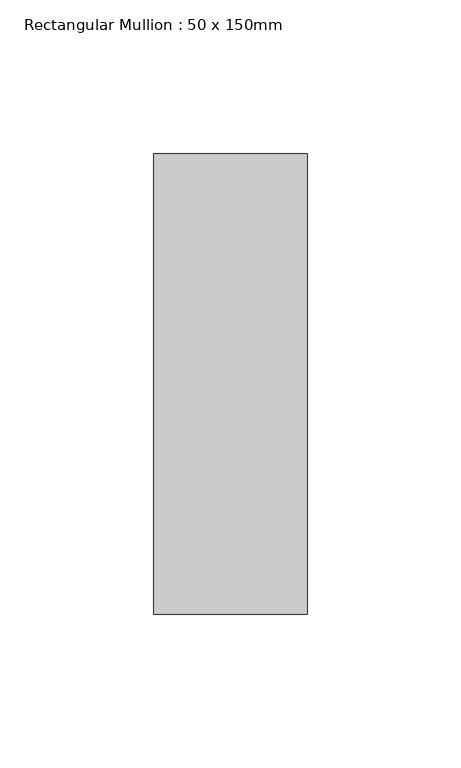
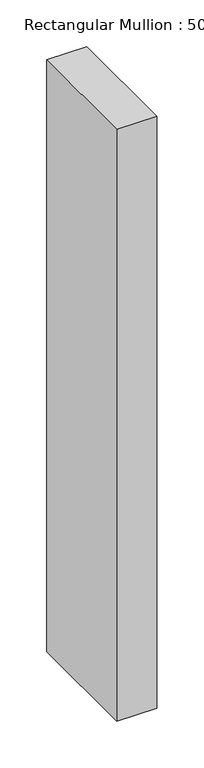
"""IFC4 building model written with IfcOpenShell, lengths in millimetres: member geometry, Rectangular Mullion : 50 x 150mm."""

from ifc_helpers import new_model, si_unit, frame, origin, place, context, project, spatial, polyline, outline, extrude, source, transform, mapped, element, save


def rectangular_mullion_50_x_150mm_d09437e2(model_context):
    return source(origin(), model_context, "Body", "SweptSolid", [
        extrude(outline(polyline([(0.0, 75.0), (0.0, -75.0), (-50.0, -75.0), (-50.0, 75.0), (0.0, 75.0)])), frame((0.0, 0.0, -774.9999997), z_axis=(0.0, 0.0, 1.0), x_axis=(1.0, 0.0, 0.0)), (0.0, 0.0, 1.0), 774.9999997),
    ])


if __name__ == "__main__":
    model = new_model("IFC4")
    model_context = context("Model", 3, world=origin())
    ifc_project = project(units=[si_unit("LENGTHUNIT", "METRE", prefix="MILLI")], contexts=[model_context])
    site = spatial("IfcSite", under=ifc_project)
    building = spatial("IfcBuilding", under=site)
    placement = place(None, origin())
    rectangular_mullion_50_x_150mm_shape = rectangular_mullion_50_x_150mm_d09437e2(model_context)
    element("IfcMember", 1, ObjectType="Rectangular Mullion : 50 x 150mm", at=placement, inside=building, context=model_context, shape_type="MappedRepresentation", body=[
        mapped(rectangular_mullion_50_x_150mm_shape, transform((0.0, 0.0, 0.0), x_axis=(1.0, 0.0, 0.0), y_axis=(0.0, 1.0, 0.0), z_axis=(0.0, 0.0, 1.0))),
    ])
    save(model, "model.ifc")
